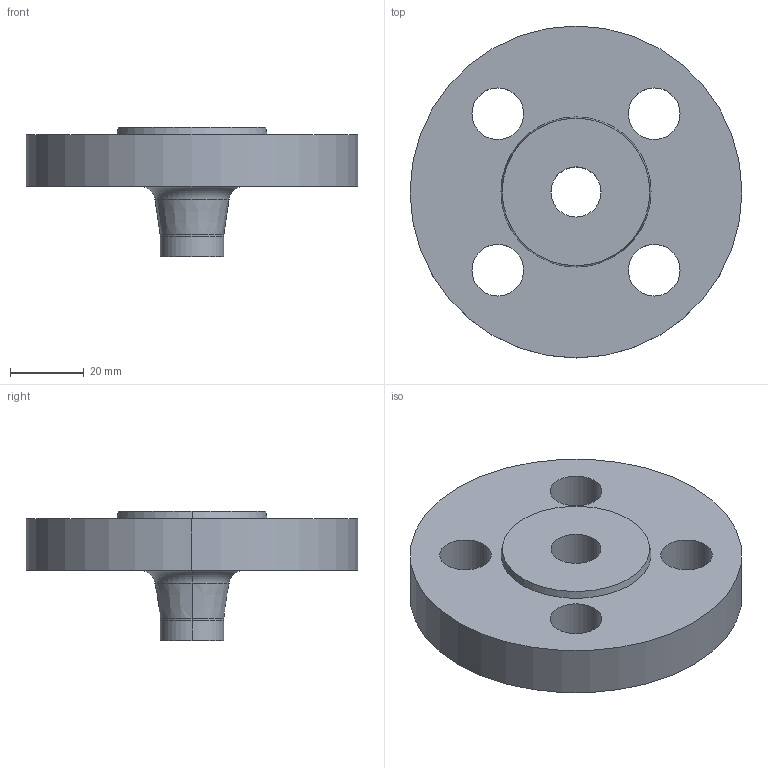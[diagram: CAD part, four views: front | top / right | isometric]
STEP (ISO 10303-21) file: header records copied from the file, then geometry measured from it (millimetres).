
FILE_DESCRIPTION (( 'STEP AP214' ), '1' );
FILE_NAME ('PN40 DN10 Type 11 - Type B Face.STEP', '2018-12-29T05:12:32', ( '' ), ( '' ), 'SwSTEP 2.0', 'SolidWorks 2019', '' );
FILE_SCHEMA (( 'AUTOMOTIVE_DESIGN' ));
Length unit declared in the file: millimetre
Products named in the file (1): PN40 DN10 Type 11 - Type B Face
Bounding box: 90 x 90 x 35 mm (x, y, z)
Volume: 83252.2 mm3; surface area: 20255.8 mm2
Topology: 1 solids, 1 shells, 26 faces, 60 edges, 38 vertices
Faces by surface type: cylinder 14, cone 4, torus 4, plane 4
Entity records: 812 total; most frequent: DIRECTION 156, CARTESIAN_POINT 125, ORIENTED_EDGE 120, AXIS2_PLACEMENT_3D 69, EDGE_CURVE 60, CIRCLE 42, EDGE_LOOP 38, VERTEX_POINT 38
